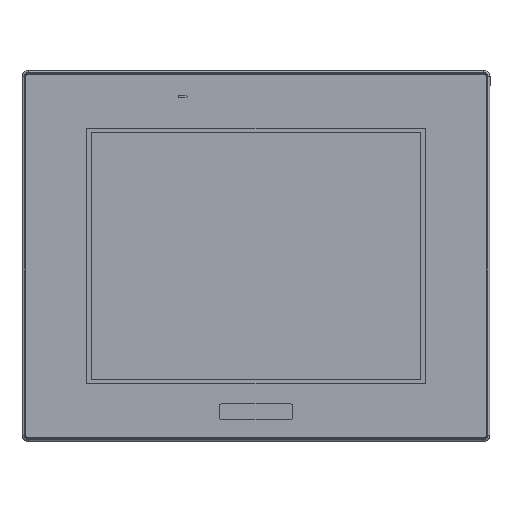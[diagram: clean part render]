
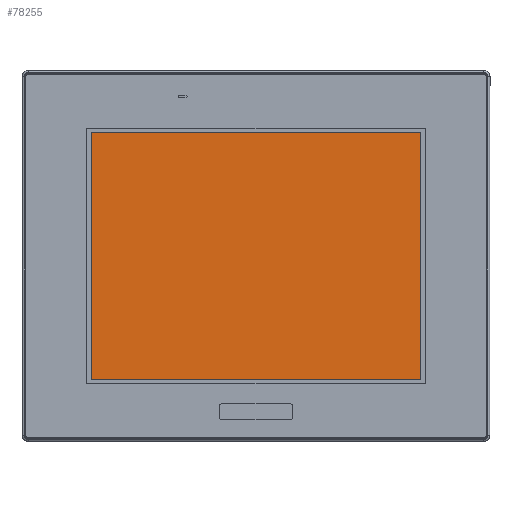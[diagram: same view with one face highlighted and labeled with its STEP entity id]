
A CAD part, top view. The second image highlights one B-rep face of the part: STEP entity #78255.
In plain terms, the highlighted planar face has unit normal (0, 0, 1).
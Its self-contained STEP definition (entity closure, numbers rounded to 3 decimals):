
#1794 = AXIS2_PLACEMENT_3D ( 'NONE', #16960, #4125, #23273 ) ;
#2016 = VERTEX_POINT ( 'NONE', #49561 ) ;
#2684 = DIRECTION ( 'NONE',  ( 0., 1., 0. ) ) ;
#3249 = CARTESIAN_POINT ( 'NONE',  ( 109., 28.9, 59.95 ) ) ;
#4125 = DIRECTION ( 'NONE',  ( 0., 0., 1. ) ) ;
#5156 = LINE ( 'NONE', #3249, #69788 ) ;
#6651 = VERTEX_POINT ( 'NONE', #52612 ) ;
#6985 = LINE ( 'NONE', #26647, #22625 ) ;
#9035 = FACE_OUTER_BOUND ( 'NONE', #20142, .T. ) ;
#12276 = VECTOR ( 'NONE', #2684, 1000. ) ;
#14431 = CARTESIAN_POINT ( 'NONE',  ( 185.85, 86.5, 59.95 ) ) ;
#16611 = ORIENTED_EDGE ( 'NONE', *, *, #26569, .T. ) ;
#16960 = CARTESIAN_POINT ( 'NONE',  ( 109., 86.5, 59.95 ) ) ;
#17767 = PLANE ( 'NONE',  #1794 ) ;
#20142 = EDGE_LOOP ( 'NONE', ( #63378, #37929, #16611, #27075 ) ) ;
#20730 = DIRECTION ( 'NONE',  ( -1., 0., 0. ) ) ;
#22625 = VECTOR ( 'NONE', #45793, 1000. ) ;
#23273 = DIRECTION ( 'NONE',  ( 1., 0., 0. ) ) ;
#23745 = DIRECTION ( 'NONE',  ( 1., 0., 0. ) ) ;
#26569 = EDGE_CURVE ( 'NONE', #2016, #62930, #35154, .T. ) ;
#26647 = CARTESIAN_POINT ( 'NONE',  ( 32.15, 86.5, 59.95 ) ) ;
#27075 = ORIENTED_EDGE ( 'NONE', *, *, #65888, .T. ) ;
#27286 = CARTESIAN_POINT ( 'NONE',  ( 32.15, 28.9, 59.95 ) ) ;
#34990 = EDGE_CURVE ( 'NONE', #67822, #6651, #5156, .T. ) ;
#35154 = LINE ( 'NONE', #45359, #52674 ) ;
#37929 = ORIENTED_EDGE ( 'NONE', *, *, #39406, .T. ) ;
#39406 = EDGE_CURVE ( 'NONE', #6651, #2016, #72165, .T. ) ;
#45359 = CARTESIAN_POINT ( 'NONE',  ( 109., 144.1, 59.95 ) ) ;
#45793 = DIRECTION ( 'NONE',  ( 0., -1., 0. ) ) ;
#49561 = CARTESIAN_POINT ( 'NONE',  ( 185.85, 144.1, 59.95 ) ) ;
#52612 = CARTESIAN_POINT ( 'NONE',  ( 185.85, 28.9, 59.95 ) ) ;
#52674 = VECTOR ( 'NONE', #20730, 1000. ) ;
#62930 = VERTEX_POINT ( 'NONE', #74440 ) ;
#63378 = ORIENTED_EDGE ( 'NONE', *, *, #34990, .T. ) ;
#65888 = EDGE_CURVE ( 'NONE', #62930, #67822, #6985, .T. ) ;
#67822 = VERTEX_POINT ( 'NONE', #27286 ) ;
#69788 = VECTOR ( 'NONE', #23745, 1000. ) ;
#72165 = LINE ( 'NONE', #14431, #12276 ) ;
#74440 = CARTESIAN_POINT ( 'NONE',  ( 32.15, 144.1, 59.95 ) ) ;
#78255 = ADVANCED_FACE ( 'NONE', ( #9035 ), #17767, .T. ) ;
